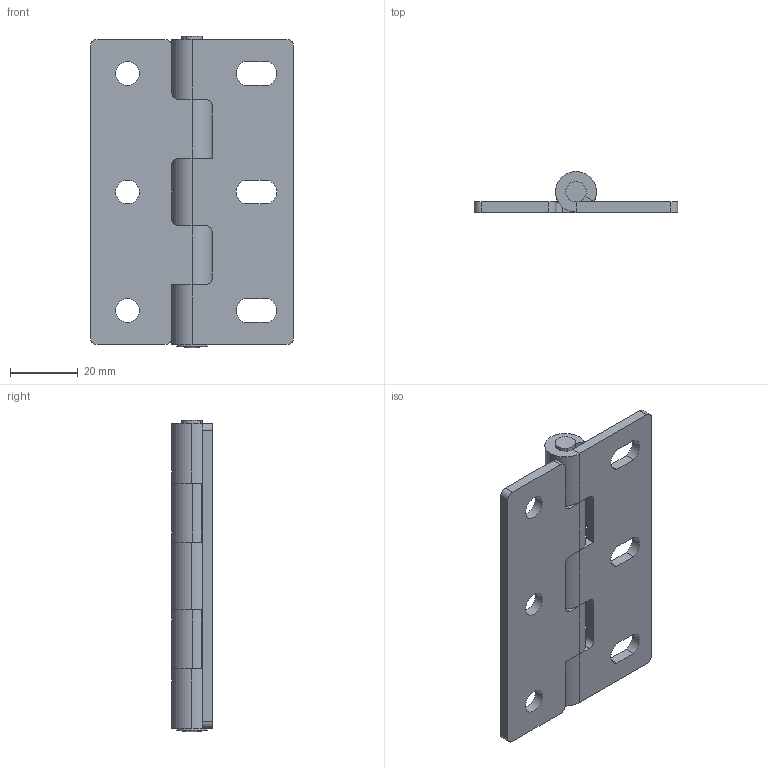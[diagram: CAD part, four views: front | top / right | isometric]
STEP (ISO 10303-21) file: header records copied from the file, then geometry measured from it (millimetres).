
FILE_DESCRIPTION (( 'STEP AP203' ), '1' );
FILE_NAME ('XG02-046-2.STEP', '2023-12-08T08:46:11', ( '' ), ( '' ), 'SwSTEP 2.0', 'SolidWorks 2020', '' );
FILE_SCHEMA (( 'CONFIG_CONTROL_DESIGN' ));
Length unit declared in the file: millimetre
Products named in the file (4): HL034-2B; HL034-2种赽; XG02-046-2; HL034-2A
Assembly tree (3 placements, depth 2):
  XG02-046-2
    HL034-2B
    HL034-2种赽
    HL034-2A
Bounding box: 60 x 12 x 92 mm (x, y, z)
Volume: 22463.5 mm3; surface area: 17793.9 mm2
Topology: 3 solids, 3 shells, 98 faces, 268 edges, 177 vertices
Faces by surface type: cylinder 58, plane 38, sphere 2
Entity records: 3588 total; most frequent: DIRECTION 594, CARTESIAN_POINT 549, ORIENTED_EDGE 536, EDGE_CURVE 268, AXIS2_PLACEMENT_3D 222, VERTEX_POINT 177, VECTOR 150, LINE 150
